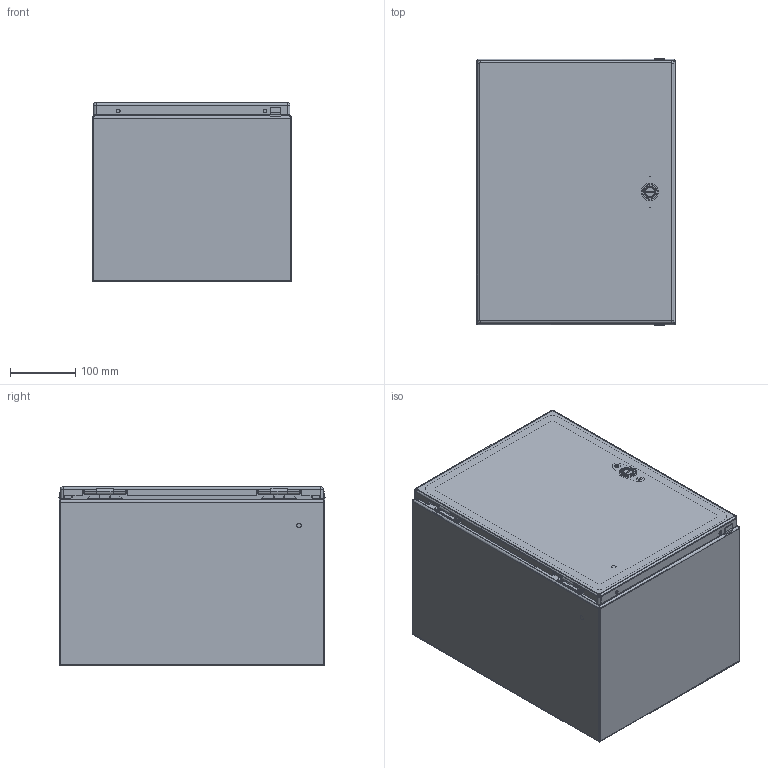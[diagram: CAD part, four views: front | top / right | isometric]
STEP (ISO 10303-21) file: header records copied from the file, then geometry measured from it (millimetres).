
FILE_DESCRIPTION (( 'STEP AP203' ), '1' );
FILE_NAME ('csd161210lg.STEP', '2012-05-21T18:44:48', ( 'User' ), ( 'Pentair Inc' ), 'SwSTEP 2.0', 'SolidWorks 2010', '' );
FILE_SCHEMA (( 'CONFIG_CONTROL_DESIGN' ));
Products named in the file (27): 23271001_After Weld; 87937917_assy; 87937957_weldment; 87937905; 99401225; 87931362_87931362; 64101001; 64201001; 87541994_Installed Height; 87541995; 64202001; 64210001; 64203001; 87927840_87927840; 87932903; 64138001; 89057560; 87543027; 89076399; 89076193; 89056623; 87929507; 87929767; 87929769_Installed on Pin; csd161210lg; 87934534; 87934337_default
Assembly tree (36 placements, depth 4):
  csd161210lg
    87543027  x2
    87929507  x2
      87929767
      87929769_Installed on Pin
    89076399  x2
      89056623
      89076193
    87934534
      23271001_After Weld  x4
      87934337_default
      99401225
    87937917_assy
      87932903  x2
      64101001
        64210001
        64203001
        64201001
        87927840_87927840
        87541994_Installed Height
        87541995
        64202001
      64138001  x2
      89057560
      87937957_weldment
        99401225
        87931362_87931362  x2
        87937905
Bounding box: 304.8 x 407.13 x 274.7 mm (x, y, z)
Volume: 932748.6 mm3; surface area: 1421808 mm2
Topology: 33 solids, 33 shells, 1667 faces, 4085 edges, 2466 vertices
Faces by surface type: plane 646, cylinder 535, bspline 288, torus 102, cone 88, sphere 8
Entity records: 46159 total; most frequent: CARTESIAN_POINT 16300, ORIENTED_EDGE 5874, DIRECTION 5113, EDGE_CURVE 2937, AXIS2_PLACEMENT_3D 1831, VERTEX_POINT 1802, LINE 1451, VECTOR 1451
